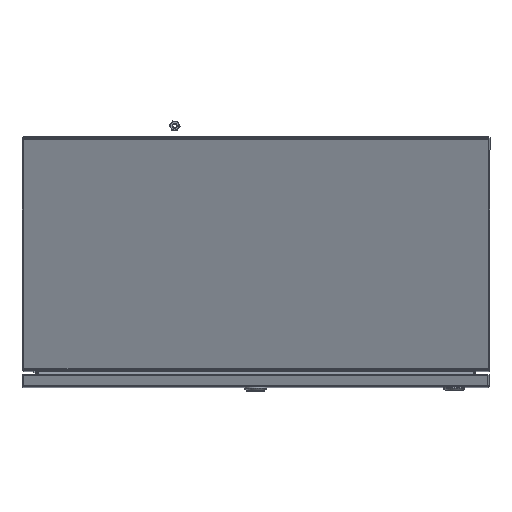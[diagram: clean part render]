
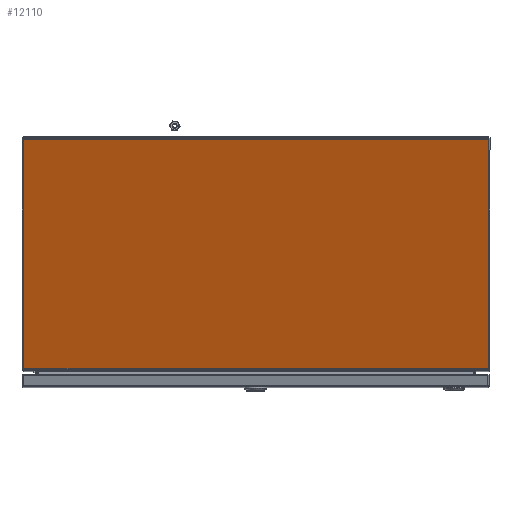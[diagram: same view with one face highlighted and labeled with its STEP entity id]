
A CAD part, top view. The second image highlights one B-rep face of the part: STEP entity #12110.
In plain terms, the highlighted planar face has unit normal (0, -0.342, 0.94) as drawn and (0.94, -0.342, 0) by its records, which use the part's own axes.
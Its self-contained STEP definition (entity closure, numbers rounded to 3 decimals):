
#1170=CIRCLE('',#13132,4.775);
#1172=CIRCLE('',#13135,4.775);
#4370=ORIENTED_EDGE('',*,*,#6075,.T.);
#4371=ORIENTED_EDGE('',*,*,#6147,.T.);
#4372=ORIENTED_EDGE('',*,*,#6146,.F.);
#4373=ORIENTED_EDGE('',*,*,#6149,.T.);
#4374=ORIENTED_EDGE('',*,*,#6064,.F.);
#4375=ORIENTED_EDGE('',*,*,#6077,.T.);
#6064=EDGE_CURVE('',#7230,#7231,#8266,.T.);
#6075=EDGE_CURVE('',#7239,#7238,#8273,.T.);
#6077=EDGE_CURVE('',#7230,#7239,#8274,.T.);
#6146=EDGE_CURVE('',#7279,#7277,#8323,.T.);
#6147=EDGE_CURVE('',#7238,#7277,#1170,.F.);
#6149=EDGE_CURVE('',#7279,#7231,#1172,.F.);
#7230=VERTEX_POINT('',#21783);
#7231=VERTEX_POINT('',#21785);
#7238=VERTEX_POINT('',#21803);
#7239=VERTEX_POINT('',#21805);
#7277=VERTEX_POINT('',#22068);
#7279=VERTEX_POINT('',#22103);
#8266=LINE('',#21784,#9321);
#8273=LINE('',#21804,#9328);
#8274=LINE('',#21808,#9329);
#8323=LINE('',#22111,#9378);
#9321=VECTOR('',#15714,1000.);
#9328=VECTOR('',#15731,1000.);
#9329=VECTOR('',#15736,1000.);
#9378=VECTOR('',#15837,1000.);
#10200=EDGE_LOOP('',(#4370,#4371,#4372,#4373,#4374,#4375));
#11022=FACE_BOUND('',#10200,.T.);
#11423=PLANE('',#13137);
#12110=ADVANCED_FACE('',(#11022),#11423,.F.);
#13132=AXIS2_PLACEMENT_3D('',#22113,#15840,#15841);
#13135=AXIS2_PLACEMENT_3D('',#22116,#15846,#15847);
#13137=AXIS2_PLACEMENT_3D('',#22118,#15850,#15851);
#15714=DIRECTION('',(-0.342,-0.94,0.));
#15731=DIRECTION('',(-0.342,-0.94,0.));
#15736=DIRECTION('',(0.,0.,1.));
#15837=DIRECTION('',(0.,0.,1.));
#15840=DIRECTION('',(-0.94,0.342,0.));
#15841=DIRECTION('',(-0.342,-0.94,0.));
#15846=DIRECTION('',(-0.94,0.342,0.));
#15847=DIRECTION('',(-0.342,-0.94,0.));
#15850=DIRECTION('',(-0.94,0.342,0.));
#15851=DIRECTION('',(-0.342,-0.94,0.));
#21783=CARTESIAN_POINT('',(435.599,-3.681,-302.971));
#21784=CARTESIAN_POINT('',(436.046,-2.454,-302.971));
#21785=CARTESIAN_POINT('',(327.425,-300.888,-302.971));
#21803=CARTESIAN_POINT('',(327.425,-300.888,302.971));
#21804=CARTESIAN_POINT('',(436.046,-2.454,302.971));
#21805=CARTESIAN_POINT('',(435.599,-3.681,302.971));
#21808=CARTESIAN_POINT('',(435.599,-3.681,-302.971));
#22068=CARTESIAN_POINT('',(326.658,-302.995,302.412));
#22103=CARTESIAN_POINT('',(326.658,-302.995,-302.412));
#22111=CARTESIAN_POINT('',(326.658,-302.995,-302.971));
#22113=CARTESIAN_POINT('',(327.425,-300.888,298.196));
#22116=CARTESIAN_POINT('',(327.425,-300.888,-298.196));
#22118=CARTESIAN_POINT('',(436.046,-2.454,-302.971));
